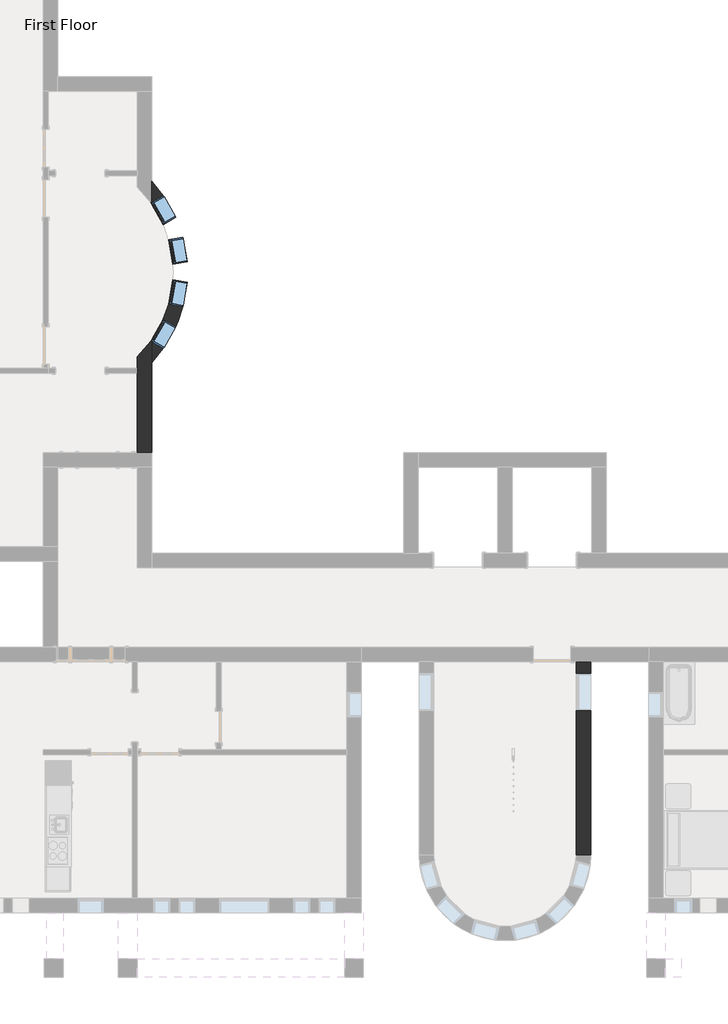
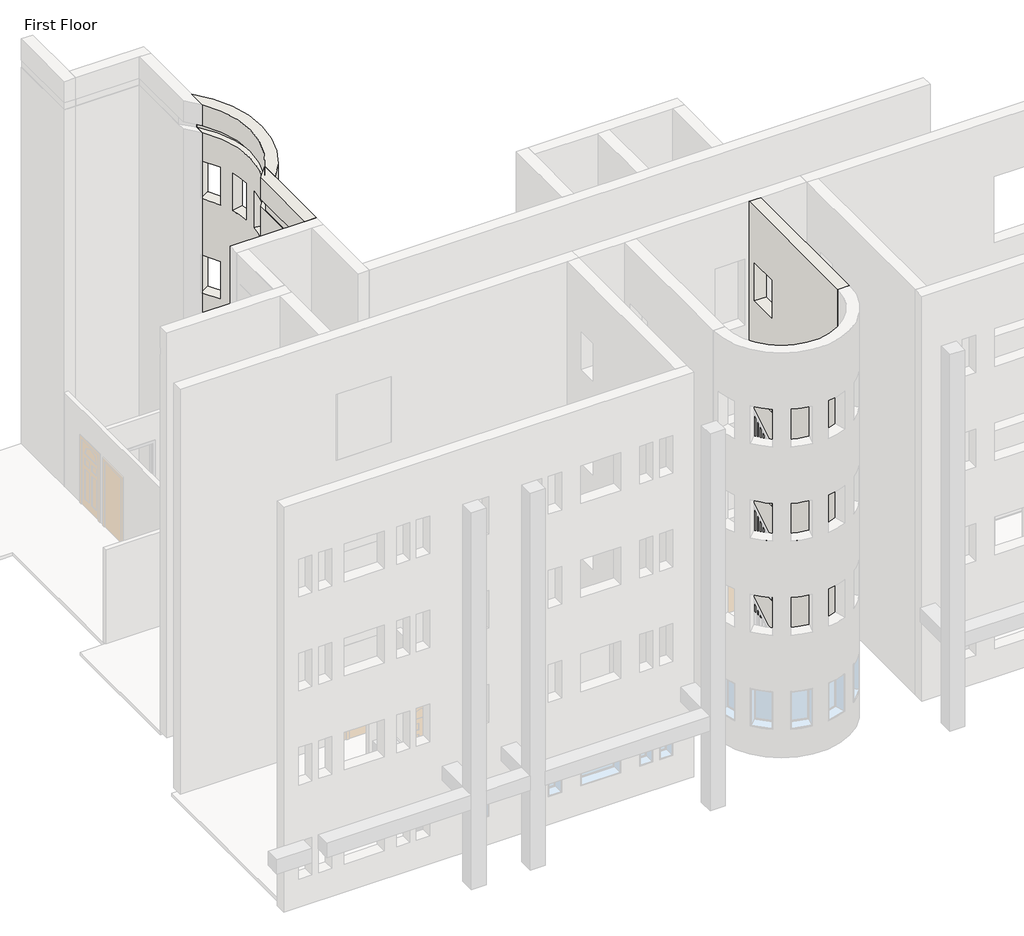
# One storey, part 5 of 23: 4 windows, 3 walls.
"""IFC4 building model written with IfcOpenShell, lengths in millimetres."""

from ifc_helpers import new_model, si_unit, frame, origin, place, context, project, spatial, polyline, circle_curve, outline, extrude, transform, mapped, element, save
from ifc_brep_helpers import plane_surface, cylinder_surface, revolved_surface, advanced_brep
from components import window_60baf983, window_ed80354a

model = new_model("IFC4")

# Units and contexts
model_context = context("Model", 3, world=origin())
ifc_project = project(units=[si_unit("LENGTHUNIT", "METRE", prefix="MILLI")], contexts=[model_context])

# Site, building, storey
site = spatial("IfcSite", under=ifc_project)
building = spatial("IfcBuilding", under=site)
storey = spatial("IfcBuildingStorey", under=building, Name="First Floor", Elevation=0.0)

# Walls
placement = place(None, origin())
element("IfcWall", 1, ObjectType="Exterior - Brick on Mtl. Stud", at=placement, inside=storey, context=model_context, shape_type="SweptSolid", body=[
    extrude(outline(polyline([(-28134.7808133, 0.0), (-32835.3683133, 0.0), (-32835.3683133, 13106.4), (-28134.7808133, 13106.4), (-28134.7808133, 0.0)]), holes=[polyline([(-29330.1683133, 8229.6), (-29330.1683133, 7010.4), (-28415.7683133, 7010.4), (-28415.7683133, 8229.6), (-29330.1683133, 8229.6)]), polyline([(-29330.1683133, 5181.6), (-29330.1683133, 3962.4), (-28415.7683133, 3962.4), (-28415.7683133, 5181.6), (-29330.1683133, 5181.6)]), polyline([(-29330.1683133, 11277.6), (-29330.1683133, 10058.4), (-28415.7683133, 10058.4), (-28415.7683133, 11277.6), (-29330.1683133, 11277.6)]), polyline([(-29330.1683133, 2133.6), (-29330.1683133, 914.4), (-28415.7683133, 914.4), (-28415.7683133, 2133.6), (-29330.1683133, 2133.6)])]), frame((-13333.3839563, 0.0, 0.0), z_axis=(1.0, 0.0, 0.0), x_axis=(0.0, 1.0, 0.0)), (0.0, 0.0, 1.0), 352.425),
])
element("IfcWall", 2, ObjectType="Exterior - Brick on Mtl. Stud", at=placement, inside=storey, context=model_context, shape_type="AdvancedBrep", body=[
    advanced_brep(
    [(-23648.9589563, -23057.9558133, 0.0), (-23648.9589563, -20866.5535473, 0.0), (-23648.9589563, -20308.6589631, 0.0), (-23648.9589563, -20308.6589631, 914.4), (-23648.9589563, -20357.947211, 914.4), (-23648.9589563, -20357.947211, 2133.6), (-23648.9589563, -20308.6589631, 2133.6), (-23648.9589563, -20308.6589631, 3962.4), (-23648.9589563, -20357.947211, 3962.4), (-23648.9589563, -20357.947211, 5181.6), (-23648.9589563, -20308.6589631, 5181.6), (-23648.9589563, -20308.6589631, 7010.4), (-23648.9589563, -20357.947211, 7010.4), (-23648.9589563, -20357.947211, 8229.6), (-23648.9589563, -20308.6589631, 8229.6), (-23648.9589563, -20308.6589631, 10058.4), (-23648.9589563, -20357.947211, 10058.4), (-23648.9589563, -20357.947211, 11277.6), (-23648.9589563, -20308.6589631, 11277.6), (-23648.9589563, -20308.6589631, 12192.0), (-23648.9589563, -20617.1458841, 12192.0), (-23648.9589563, -20617.1458841, 12420.6), (-23648.9589563, -20308.6589631, 12420.6), (-23648.9589563, -20308.6589631, 13106.4), (-23648.9589563, -20866.5535473, 13106.4), (-23648.9589563, -23057.9558133, 13106.4), (-24001.3839563, -20722.552661, 0.0), (-24001.3839563, -20997.3808133, 0.0), (-24001.3839563, -21124.3808133, 0.0), (-24001.3839563, -23057.9558133, 0.0), (-24001.3839563, -23057.9558133, 12192.0), (-24001.3839563, -21124.3808133, 12192.0), (-24001.3839563, -20997.3808133, 12192.0), (-24001.3839563, -20722.552661, 12192.0), (-24001.3839563, -23057.9558133, 13106.4), (-24001.3839563, -20722.552661, 13106.4), (-24001.3839563, -20722.552661, 12420.6), (-24001.3839563, -23057.9558133, 12420.6), (-23654.428547, -20316.4477821, 11277.6), (-23654.428547, -20316.4477821, 10058.4), (-23654.428547, -20316.4477821, 8229.6), (-23654.428547, -20316.4477821, 7010.4), (-23654.428547, -20316.4477821, 5181.6), (-23654.428547, -20316.4477821, 3962.4), (-23654.428547, -20316.4477821, 2133.6), (-23654.428547, -20316.4477821, 914.4), (-23988.6839563, -23057.9558133, 12420.6), (-23988.6839563, -23057.9558133, 12192.0), (-23670.9598455, -20345.3735215, 2133.6), (-23670.9598455, -20345.3735215, 914.4), (-23670.9598455, -20345.3735215, 11277.6), (-23670.9598455, -20345.3735215, 10058.4), (-23670.9598455, -20345.3735215, 5181.6), (-23670.9598455, -20345.3735215, 3962.4), (-23670.9598455, -20345.3735215, 8229.6), (-23670.9598455, -20345.3735215, 7010.4), (-23988.6839563, -20965.4736866, 12192.0), (-23988.6839563, -20965.4736866, 12420.6)],
    [
        (0, 1),
        (1, 2),
        (2, 3),
        (3, 4),
        (4, 5),
        (5, 6),
        (6, 7),
        (7, 8),
        (8, 9),
        (9, 10),
        (10, 11),
        (11, 12),
        (12, 13),
        (13, 14),
        (14, 15),
        (15, 16),
        (16, 17),
        (17, 18),
        (18, 19),
        (19, 20),
        (20, 21),
        (21, 22),
        (22, 23),
        (23, 24),
        (24, 25),
        (25, 0),
        (26, 27),
        (27, 28),
        (28, 29),
        (29, 30),
        (30, 31),
        (31, 32),
        (32, 33),
        (33, 26),
        (34, 35),
        (35, 36),
        (36, 37),
        (37, 34),
        (0, 29),
        (26, 2, circle_curve(frame((-26001.8788413, -18662.1683133, 0.0), z_axis=(0.0, 0.0, 1.0), x_axis=(0.0, -1.0, 0.0)), 2871.7875)),
        (23, 35, circle_curve(frame((-26001.8788413, -18662.1683133, 13106.4), z_axis=(0.0, 0.0, -1.0), x_axis=(0.0, -1.0, 0.0)), 2871.7875)),
        (34, 25),
        (33, 19, circle_curve(frame((-26001.8788413, -18662.1683133, 12192.0), z_axis=(0.0, 0.0, 1.0), x_axis=(0.0, -1.0, 0.0)), 2871.7875)),
        (18, 38, circle_curve(frame((-26001.8788413, -18662.1683133, 11277.6), z_axis=(0.0, 0.0, -1.0), x_axis=(0.0, -1.0, 0.0)), 2871.7875)),
        (38, 39),
        (39, 15, circle_curve(frame((-26001.8788413, -18662.1683133, 10058.4), z_axis=(0.0, 0.0, 1.0), x_axis=(0.0, -1.0, 0.0)), 2871.7875)),
        (14, 40, circle_curve(frame((-26001.8788413, -18662.1683133, 8229.6), z_axis=(0.0, 0.0, -1.0), x_axis=(0.0, -1.0, 0.0)), 2871.7875)),
        (40, 41),
        (41, 11, circle_curve(frame((-26001.8788413, -18662.1683133, 7010.4), z_axis=(0.0, 0.0, 1.0), x_axis=(0.0, -1.0, 0.0)), 2871.7875)),
        (10, 42, circle_curve(frame((-26001.8788413, -18662.1683133, 5181.6), z_axis=(0.0, 0.0, -1.0), x_axis=(0.0, -1.0, 0.0)), 2871.7875)),
        (42, 43),
        (43, 7, circle_curve(frame((-26001.8788413, -18662.1683133, 3962.4), z_axis=(0.0, 0.0, 1.0), x_axis=(0.0, -1.0, 0.0)), 2871.7875)),
        (6, 44, circle_curve(frame((-26001.8788413, -18662.1683133, 2133.6), z_axis=(0.0, 0.0, -1.0), x_axis=(0.0, -1.0, 0.0)), 2871.7875)),
        (44, 45),
        (45, 3, circle_curve(frame((-26001.8788413, -18662.1683133, 914.4), z_axis=(0.0, 0.0, 1.0), x_axis=(0.0, -1.0, 0.0)), 2871.7875)),
        (22, 36, circle_curve(frame((-26001.8788413, -18662.1683133, 12420.6), z_axis=(0.0, 0.0, -1.0), x_axis=(0.0, -1.0, 0.0)), 2871.7875)),
        (37, 46),
        (46, 47),
        (47, 30),
        (48, 49),
        (49, 45),
        (44, 48),
        (49, 4),
        (48, 5),
        (50, 51),
        (51, 39),
        (38, 50),
        (51, 16),
        (50, 17),
        (52, 53),
        (53, 43),
        (42, 52),
        (53, 8),
        (52, 9),
        (54, 55),
        (55, 41),
        (40, 54),
        (55, 12),
        (54, 13),
        (47, 56),
        (56, 20, circle_curve(frame((-26001.8788413, -18662.1683133, 12192.0), z_axis=(0.0, 0.0, 1.0), x_axis=(0.0, -1.0, 0.0)), 3059.1125)),
        (21, 57, circle_curve(frame((-26001.8788413, -18662.1683133, 12420.6), z_axis=(0.0, 0.0, -1.0), x_axis=(0.0, -1.0, 0.0)), 3059.1125)),
        (57, 46),
        (57, 56),
    ],
    [
        plane_surface(frame((-23648.9589563, -23234.1683133, 0.0), z_axis=(1.0, 0.0, 0.0), x_axis=(0.0, 1.0, 0.0))),
        plane_surface(frame((-24001.3839563, -23234.1683133, 0.0), z_axis=(-1.0, 0.0, 0.0), x_axis=(0.0, -1.0, 0.0))),
        plane_surface(frame((-23648.9589563, -23234.1683133, 0.0), z_axis=(0.0, 0.0, -1.0), x_axis=(-1.0, 0.0, 0.0))),
        plane_surface(frame((-23648.9589563, -20795.7683133, 13106.4), z_axis=(0.0, 0.0, 1.0), x_axis=(-1.0, 0.0, 0.0))),
        revolved_surface(polyline([(-26001.8788413, -21533.9558133, 0.0), (-26001.8788413, -21533.9558133, 12192.0)]), (-26001.8788413, -18662.1683133, 0.0), (0.0, 0.0, -1.0)),
        revolved_surface(polyline([(-26001.8788413, -21533.9558133, 12420.6), (-26001.8788413, -21533.9558133, 13106.4)]), (-26001.8788413, -18662.1683133, 0.0), (0.0, 0.0, -1.0)),
        plane_surface(frame((-26111.1714563, -23057.9558133, 0.0), z_axis=(0.0, -1.0, 0.0), x_axis=(-1.0, 0.0, 0.0))),
        plane_surface(frame((-23368.4817613, -19816.1106675, 2133.6), z_axis=(0.8682133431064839, -0.4961910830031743, 0.0), x_axis=(0.0, 0.0, -1.0))),
        plane_surface(frame((-23368.4817613, -19816.1106675, 914.4), z_axis=(0.0, 0.0, 1.0), x_axis=(0.8682133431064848, -0.4961910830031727, 0.0))),
        plane_surface(frame((-23670.9598455, -20345.3735215, 914.4), z_axis=(0.4961910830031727, 0.8682133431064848, 0.0), x_axis=(0.8682133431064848, -0.4961910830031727, 0.0))),
        plane_surface(frame((-23670.9598455, -20345.3735215, 2133.6), z_axis=(0.0, 0.0, -1.0), x_axis=(0.8682133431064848, -0.4961910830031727, 0.0))),
        plane_surface(frame((-23368.4817613, -19816.1106675, 11277.6), z_axis=(0.8682133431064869, -0.49619108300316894, 0.0), x_axis=(0.0, 0.0, -1.0))),
        plane_surface(frame((-23368.4817613, -19816.1106675, 10058.4), z_axis=(0.0, 0.0, 1.0), x_axis=(0.868213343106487, -0.4961910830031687, 0.0))),
        plane_surface(frame((-23670.9598455, -20345.3735215, 10058.4), z_axis=(0.4961910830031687, 0.868213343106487, 0.0), x_axis=(0.868213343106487, -0.4961910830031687, 0.0))),
        plane_surface(frame((-23670.9598455, -20345.3735215, 11277.6), z_axis=(0.0, 0.0, -1.0), x_axis=(0.868213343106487, -0.4961910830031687, 0.0))),
        plane_surface(frame((-23368.4817613, -19816.1106675, 5181.6), z_axis=(0.8682133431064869, -0.49619108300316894, 0.0), x_axis=(0.0, 0.0, -1.0))),
        plane_surface(frame((-23368.4817613, -19816.1106675, 3962.4), z_axis=(0.0, 0.0, 1.0), x_axis=(0.868213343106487, -0.4961910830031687, 0.0))),
        plane_surface(frame((-23670.9598455, -20345.3735215, 3962.4), z_axis=(0.4961910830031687, 0.868213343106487, 0.0), x_axis=(0.868213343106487, -0.4961910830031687, 0.0))),
        plane_surface(frame((-23670.9598455, -20345.3735215, 5181.6), z_axis=(0.0, 0.0, -1.0), x_axis=(0.868213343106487, -0.4961910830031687, 0.0))),
        plane_surface(frame((-23368.4817613, -19816.1106675, 8229.6), z_axis=(0.8682133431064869, -0.49619108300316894, 0.0), x_axis=(0.0, 0.0, -1.0))),
        plane_surface(frame((-23368.4817613, -19816.1106675, 7010.4), z_axis=(0.0, 0.0, 1.0), x_axis=(0.868213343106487, -0.4961910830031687, 0.0))),
        plane_surface(frame((-23670.9598455, -20345.3735215, 7010.4), z_axis=(0.4961910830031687, 0.868213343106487, 0.0), x_axis=(0.868213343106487, -0.4961910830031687, 0.0))),
        plane_surface(frame((-23670.9598455, -20345.3735215, 8229.6), z_axis=(0.0, 0.0, -1.0), x_axis=(0.868213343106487, -0.4961910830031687, 0.0))),
        plane_surface(frame((-29757.6589563, -11967.6808133, 12192.0), z_axis=(0.0, 0.0, 1.0), x_axis=(1.0, 0.0, 0.0))),
        plane_surface(frame((-29757.6589563, -11967.6808133, 12420.6), z_axis=(0.0, 0.0, -1.0), x_axis=(1.0, 0.0, 0.0))),
        plane_surface(frame((-23988.6839563, -23070.6558133, 12192.0), z_axis=(-1.0, 0.0, 0.0), x_axis=(0.0, 1.0, 0.0))),
        revolved_surface(polyline([(-26001.8788413, -21721.2808133, 12420.6), (-26001.8788413, -21721.2808133, 12192.0)]), (-26001.8788413, -18662.1683133, 12192.0), (0.0, 0.0, 1.0)),
    ],
    [
        (0, [[1, 2, 3, 4, 5, 6, 7, 8, 9, 10, 11, 12, 13, 14, 15, 16, 17, 18, 19, 20, 21, 22, 23, 24, 25, 26]]),
        (1, [[27, 28, 29, 30, 31, 32, 33, 34]]),
        (1, [[35, 36, 37, 38]]),
        (2, [[-2, -1, 39, -29, -28, -27, 40]]),
        (3, [[-25, -24, 41, -35, 42]]),
        (4, [[-40, -34, 43, -19, 44, 45, 46, -15, 47, 48, 49, -11, 50, 51, 52, -7, 53, 54, 55, -3]]),
        (5, [[-41, -23, 56, -36]]),
        (6, [[-26, -42, -38, 57, 58, 59, -30, -39]]),
        (7, [[60, 61, -54, 62]]),
        (8, [[63, -4, -55, -61]]),
        (9, [[-60, 64, -5, -63]]),
        (10, [[-64, -62, -53, -6]]),
        (11, [[65, 66, -45, 67]]),
        (12, [[68, -16, -46, -66]]),
        (13, [[-65, 69, -17, -68]]),
        (14, [[-69, -67, -44, -18]]),
        (15, [[70, 71, -51, 72]]),
        (16, [[73, -8, -52, -71]]),
        (17, [[-70, 74, -9, -73]]),
        (18, [[-74, -72, -50, -10]]),
        (19, [[75, 76, -48, 77]]),
        (20, [[78, -12, -49, -76]]),
        (21, [[-75, 79, -13, -78]]),
        (22, [[-79, -77, -47, -14]]),
        (23, [[80, 81, -20, -43, -33, -32, -31, -59]]),
        (24, [[82, 83, -57, -37, -56, -22]]),
        (25, [[84, -80, -58, -83]]),
        (26, [[-84, -82, -21, -81]]),
    ],
),
])
element("IfcWall", 3, ObjectType="Exterior - Brick on Mtl. Stud", at=placement, inside=storey, context=model_context, shape_type="AdvancedBrep", body=[
    advanced_brep(
    [(-23648.9589563, -20866.5535473, 13106.4), (-23648.9589563, -16457.7830793, 13106.4), (-23648.9589563, -17015.6776635, 13106.4), (-23648.9589563, -20308.6589631, 13106.4), (-23648.9589563, -16457.7830793, 0.0), (-23648.9589563, -20866.5535473, 0.0), (-23648.9589563, -20308.6589631, 0.0), (-23648.9589563, -17015.6776635, 0.0), (-23063.8719855, -17334.1389611, 914.4), (-23063.8719855, -17334.1389611, 2133.6), (-23366.3500697, -16804.8761071, 2133.6), (-23366.3500697, -16804.8761071, 914.4), (-23063.8719855, -19990.1976656, 2133.6), (-23063.8719855, -19990.1976656, 914.4), (-23366.3500697, -20519.4605195, 914.4), (-23366.3500697, -20519.4605195, 2133.6), (-23063.8719855, -17334.1389611, 10058.4), (-23063.8719855, -17334.1389611, 11277.6), (-23366.3500697, -16804.8761071, 11277.6), (-23366.3500697, -16804.8761071, 10058.4), (-23063.8719855, -19990.1976656, 11277.6), (-23063.8719855, -19990.1976656, 10058.4), (-23366.3500697, -20519.4605195, 10058.4), (-23366.3500697, -20519.4605195, 11277.6), (-23063.8719855, -17334.1389611, 3962.4), (-23063.8719855, -17334.1389611, 5181.6), (-23366.3500697, -16804.8761071, 5181.6), (-23366.3500697, -16804.8761071, 3962.4), (-23063.8719855, -19990.1976656, 5181.6), (-23063.8719855, -19990.1976656, 3962.4), (-23366.3500697, -20519.4605195, 3962.4), (-23366.3500697, -20519.4605195, 5181.6), (-23063.8719855, -17334.1389611, 7010.4), (-23063.8719855, -17334.1389611, 8229.6), (-23366.3500697, -16804.8761071, 8229.6), (-23366.3500697, -16804.8761071, 7010.4), (-23063.8719855, -19990.1976656, 8229.6), (-23063.8719855, -19990.1976656, 7010.4), (-23366.3500697, -20519.4605195, 7010.4), (-23366.3500697, -20519.4605195, 8229.6), (-22786.9445035, -18906.5930431, 8229.6), (-22786.9445035, -18906.5930431, 7010.4), (-22890.4133094, -19507.3478734, 7010.4), (-22890.4133094, -19507.3478734, 8229.6), (-22786.9445035, -18417.7435836, 7010.4), (-22786.9445035, -18417.7435836, 8229.6), (-22890.4133094, -17816.9887532, 8229.6), (-22890.4133094, -17816.9887532, 7010.4), (-22786.9445035, -18906.5930431, 5181.6), (-22786.9445035, -18906.5930431, 3962.4), (-22890.4133094, -19507.3478734, 3962.4), (-22890.4133094, -19507.3478734, 5181.6), (-22786.9445035, -18417.7435836, 3962.4), (-22786.9445035, -18417.7435836, 5181.6), (-22890.4133094, -17816.9887532, 5181.6), (-22890.4133094, -17816.9887532, 3962.4), (-22786.9445035, -18906.5930431, 11277.6), (-22786.9445035, -18906.5930431, 10058.4), (-22890.4133094, -19507.3478734, 10058.4), (-22890.4133094, -19507.3478734, 11277.6), (-22786.9445035, -18417.7435836, 10058.4), (-22786.9445035, -18417.7435836, 11277.6), (-22890.4133094, -17816.9887532, 11277.6), (-22890.4133094, -17816.9887532, 10058.4), (-22786.9445035, -18906.5930431, 2133.6), (-22786.9445035, -18906.5930431, 914.4), (-22890.4133094, -19507.3478734, 914.4), (-22890.4133094, -19507.3478734, 2133.6), (-22786.9445035, -18417.7435836, 914.4), (-22786.9445035, -18417.7435836, 2133.6), (-22890.4133094, -17816.9887532, 2133.6), (-22890.4133094, -17816.9887532, 914.4), (-23648.9589563, -17015.6776635, 12420.6), (-23648.9589563, -20308.6589631, 12420.6), (-23648.9589563, -20308.6589631, 914.4), (-23371.3988057, -19814.4435526, 914.4), (-23371.3988057, -19814.4435526, 2133.6), (-23648.9589563, -20308.6589631, 2133.6), (-23648.9589563, -20308.6589631, 3962.4), (-23371.3988057, -19814.4435526, 3962.4), (-23371.3988057, -19814.4435526, 5181.6), (-23648.9589563, -20308.6589631, 5181.6), (-23648.9589563, -20308.6589631, 7010.4), (-23371.3988057, -19814.4435526, 7010.4), (-23371.3988057, -19814.4435526, 8229.6), (-23648.9589563, -20308.6589631, 8229.6), (-23648.9589563, -20308.6589631, 10058.4), (-23371.3988057, -19814.4435526, 10058.4), (-23371.3988057, -19814.4435526, 11277.6), (-23648.9589563, -20308.6589631, 11277.6), (-23648.9589563, -20308.6589631, 12192.0), (-23648.9589563, -17015.6776635, 12192.0), (-23648.9589563, -17015.6776635, 11277.6), (-23371.3988057, -17509.893074, 11277.6), (-23371.3988057, -17509.893074, 10058.4), (-23648.9589563, -17015.6776635, 10058.4), (-23648.9589563, -17015.6776635, 8229.6), (-23371.3988057, -17509.893074, 8229.6), (-23371.3988057, -17509.893074, 7010.4), (-23648.9589563, -17015.6776635, 7010.4), (-23648.9589563, -17015.6776635, 5181.6), (-23371.3988057, -17509.893074, 5181.6), (-23371.3988057, -17509.893074, 3962.4), (-23648.9589563, -17015.6776635, 3962.4), (-23648.9589563, -17015.6776635, 2133.6), (-23371.3988057, -17509.893074, 2133.6), (-23371.3988057, -17509.893074, 914.4), (-23648.9589563, -17015.6776635, 914.4), (-23136.0115527, -18846.4727595, 7010.4), (-23136.0115527, -18846.4727595, 8229.6), (-23239.4803586, -19447.2275899, 8229.6), (-23239.4803586, -19447.2275899, 7010.4), (-23136.0115527, -18477.8638671, 8229.6), (-23136.0115527, -18477.8638671, 7010.4), (-23239.4803586, -17877.1090368, 7010.4), (-23239.4803586, -17877.1090368, 8229.6), (-23136.0115527, -18846.4727595, 3962.4), (-23136.0115527, -18846.4727595, 5181.6), (-23239.4803586, -19447.2275899, 5181.6), (-23239.4803586, -19447.2275899, 3962.4), (-23136.0115527, -18477.8638671, 5181.6), (-23136.0115527, -18477.8638671, 3962.4), (-23239.4803586, -17877.1090368, 3962.4), (-23239.4803586, -17877.1090368, 5181.6), (-23136.0115527, -18846.4727595, 10058.4), (-23136.0115527, -18846.4727595, 11277.6), (-23239.4803586, -19447.2275899, 11277.6), (-23239.4803586, -19447.2275899, 10058.4), (-23136.0115527, -18477.8638671, 11277.6), (-23136.0115527, -18477.8638671, 10058.4), (-23239.4803586, -17877.1090368, 10058.4), (-23239.4803586, -17877.1090368, 11277.6), (-23136.0115527, -18846.4727595, 914.4), (-23136.0115527, -18846.4727595, 2133.6), (-23239.4803586, -19447.2275899, 2133.6), (-23239.4803586, -19447.2275899, 914.4), (-23136.0115527, -18477.8638671, 2133.6), (-23136.0115527, -18477.8638671, 914.4), (-23239.4803586, -17877.1090368, 914.4), (-23239.4803586, -17877.1090368, 2133.6), (-23648.9589563, -20617.1458841, 12420.6), (-23648.9589563, -20617.1458841, 12192.0), (-23648.9589563, -20357.947211, 11277.6), (-23648.9589563, -20357.947211, 10058.4), (-23648.9589563, -20357.947211, 8229.6), (-23648.9589563, -20357.947211, 7010.4), (-23648.9589563, -20357.947211, 5181.6), (-23648.9589563, -20357.947211, 3962.4), (-23648.9589563, -20357.947211, 2133.6), (-23648.9589563, -20357.947211, 914.4), (-23648.9589563, -16966.3894156, 914.4), (-23648.9589563, -16966.3894156, 2133.6), (-23648.9589563, -16966.3894156, 3962.4), (-23648.9589563, -16966.3894156, 5181.6), (-23648.9589563, -16966.3894156, 7010.4), (-23648.9589563, -16966.3894156, 8229.6), (-23648.9589563, -16966.3894156, 10058.4), (-23648.9589563, -16966.3894156, 11277.6), (-23648.9589563, -16707.1907425, 12192.0), (-23648.9589563, -16707.1907425, 12420.6)],
    [
        (0, 1, circle_curve(frame((-26001.8788413, -18662.1683133, 13106.4), z_axis=(0.0, 0.0, 1.0), x_axis=(0.0, -1.0, 0.0)), 3224.2125)),
        (1, 2),
        (2, 3, circle_curve(frame((-26001.8788413, -18662.1683133, 13106.4), z_axis=(0.0, 0.0, -1.0), x_axis=(0.0, -1.0, 0.0)), 2871.7875)),
        (3, 0),
        (4, 5, circle_curve(frame((-26001.8788413, -18662.1683133, 0.0), z_axis=(0.0, 0.0, -1.0), x_axis=(0.0, -1.0, 0.0)), 3224.2125)),
        (5, 6),
        (6, 7, circle_curve(frame((-26001.8788413, -18662.1683133, 0.0), z_axis=(0.0, 0.0, 1.0), x_axis=(0.0, -1.0, 0.0)), 2871.7875)),
        (7, 4),
        (0, 5),
        (4, 1),
        (8, 9),
        (9, 10, circle_curve(frame((-26001.8788413, -18662.1683133, 2133.6), z_axis=(0.0, 0.0, 1.0), x_axis=(0.0, -1.0, 0.0)), 3224.2125)),
        (10, 11),
        (11, 8, circle_curve(frame((-26001.8788413, -18662.1683133, 914.4), z_axis=(0.0, 0.0, -1.0), x_axis=(0.0, -1.0, 0.0)), 3224.2125)),
        (12, 13),
        (13, 14, circle_curve(frame((-26001.8788413, -18662.1683133, 914.4), z_axis=(0.0, 0.0, -1.0), x_axis=(0.0, -1.0, 0.0)), 3224.2125)),
        (14, 15),
        (15, 12, circle_curve(frame((-26001.8788413, -18662.1683133, 2133.6), z_axis=(0.0, 0.0, 1.0), x_axis=(0.0, -1.0, 0.0)), 3224.2125)),
        (16, 17),
        (17, 18, circle_curve(frame((-26001.8788413, -18662.1683133, 11277.6), z_axis=(0.0, 0.0, 1.0), x_axis=(0.0, -1.0, 0.0)), 3224.2125)),
        (18, 19),
        (19, 16, circle_curve(frame((-26001.8788413, -18662.1683133, 10058.4), z_axis=(0.0, 0.0, -1.0), x_axis=(0.0, -1.0, 0.0)), 3224.2125)),
        (20, 21),
        (21, 22, circle_curve(frame((-26001.8788413, -18662.1683133, 10058.4), z_axis=(0.0, 0.0, -1.0), x_axis=(0.0, -1.0, 0.0)), 3224.2125)),
        (22, 23),
        (23, 20, circle_curve(frame((-26001.8788413, -18662.1683133, 11277.6), z_axis=(0.0, 0.0, 1.0), x_axis=(0.0, -1.0, 0.0)), 3224.2125)),
        (24, 25),
        (25, 26, circle_curve(frame((-26001.8788413, -18662.1683133, 5181.6), z_axis=(0.0, 0.0, 1.0), x_axis=(0.0, -1.0, 0.0)), 3224.2125)),
        (26, 27),
        (27, 24, circle_curve(frame((-26001.8788413, -18662.1683133, 3962.4), z_axis=(0.0, 0.0, -1.0), x_axis=(0.0, -1.0, 0.0)), 3224.2125)),
        (28, 29),
        (29, 30, circle_curve(frame((-26001.8788413, -18662.1683133, 3962.4), z_axis=(0.0, 0.0, -1.0), x_axis=(0.0, -1.0, 0.0)), 3224.2125)),
        (30, 31),
        (31, 28, circle_curve(frame((-26001.8788413, -18662.1683133, 5181.6), z_axis=(0.0, 0.0, 1.0), x_axis=(0.0, -1.0, 0.0)), 3224.2125)),
        (32, 33),
        (33, 34, circle_curve(frame((-26001.8788413, -18662.1683133, 8229.6), z_axis=(0.0, 0.0, 1.0), x_axis=(0.0, -1.0, 0.0)), 3224.2125)),
        (34, 35),
        (35, 32, circle_curve(frame((-26001.8788413, -18662.1683133, 7010.4), z_axis=(0.0, 0.0, -1.0), x_axis=(0.0, -1.0, 0.0)), 3224.2125)),
        (36, 37),
        (37, 38, circle_curve(frame((-26001.8788413, -18662.1683133, 7010.4), z_axis=(0.0, 0.0, -1.0), x_axis=(0.0, -1.0, 0.0)), 3224.2125)),
        (38, 39),
        (39, 36, circle_curve(frame((-26001.8788413, -18662.1683133, 8229.6), z_axis=(0.0, 0.0, 1.0), x_axis=(0.0, -1.0, 0.0)), 3224.2125)),
        (40, 41),
        (41, 42, circle_curve(frame((-26001.8788413, -18662.1683133, 7010.4), z_axis=(0.0, 0.0, -1.0), x_axis=(0.0, -1.0, 0.0)), 3224.2125)),
        (42, 43),
        (43, 40, circle_curve(frame((-26001.8788413, -18662.1683133, 8229.6), z_axis=(0.0, 0.0, 1.0), x_axis=(0.0, -1.0, 0.0)), 3224.2125)),
        (44, 45),
        (45, 46, circle_curve(frame((-26001.8788413, -18662.1683133, 8229.6), z_axis=(0.0, 0.0, 1.0), x_axis=(0.0, -1.0, 0.0)), 3224.2125)),
        (46, 47),
        (47, 44, circle_curve(frame((-26001.8788413, -18662.1683133, 7010.4), z_axis=(0.0, 0.0, -1.0), x_axis=(0.0, -1.0, 0.0)), 3224.2125)),
        (48, 49),
        (49, 50, circle_curve(frame((-26001.8788413, -18662.1683133, 3962.4), z_axis=(0.0, 0.0, -1.0), x_axis=(0.0, -1.0, 0.0)), 3224.2125)),
        (50, 51),
        (51, 48, circle_curve(frame((-26001.8788413, -18662.1683133, 5181.6), z_axis=(0.0, 0.0, 1.0), x_axis=(0.0, -1.0, 0.0)), 3224.2125)),
        (52, 53),
        (53, 54, circle_curve(frame((-26001.8788413, -18662.1683133, 5181.6), z_axis=(0.0, 0.0, 1.0), x_axis=(0.0, -1.0, 0.0)), 3224.2125)),
        (54, 55),
        (55, 52, circle_curve(frame((-26001.8788413, -18662.1683133, 3962.4), z_axis=(0.0, 0.0, -1.0), x_axis=(0.0, -1.0, 0.0)), 3224.2125)),
        (56, 57),
        (57, 58, circle_curve(frame((-26001.8788413, -18662.1683133, 10058.4), z_axis=(0.0, 0.0, -1.0), x_axis=(0.0, -1.0, 0.0)), 3224.2125)),
        (58, 59),
        (59, 56, circle_curve(frame((-26001.8788413, -18662.1683133, 11277.6), z_axis=(0.0, 0.0, 1.0), x_axis=(0.0, -1.0, 0.0)), 3224.2125)),
        (60, 61),
        (61, 62, circle_curve(frame((-26001.8788413, -18662.1683133, 11277.6), z_axis=(0.0, 0.0, 1.0), x_axis=(0.0, -1.0, 0.0)), 3224.2125)),
        (62, 63),
        (63, 60, circle_curve(frame((-26001.8788413, -18662.1683133, 10058.4), z_axis=(0.0, 0.0, -1.0), x_axis=(0.0, -1.0, 0.0)), 3224.2125)),
        (64, 65),
        (65, 66, circle_curve(frame((-26001.8788413, -18662.1683133, 914.4), z_axis=(0.0, 0.0, -1.0), x_axis=(0.0, -1.0, 0.0)), 3224.2125)),
        (66, 67),
        (67, 64, circle_curve(frame((-26001.8788413, -18662.1683133, 2133.6), z_axis=(0.0, 0.0, 1.0), x_axis=(0.0, -1.0, 0.0)), 3224.2125)),
        (68, 69),
        (69, 70, circle_curve(frame((-26001.8788413, -18662.1683133, 2133.6), z_axis=(0.0, 0.0, 1.0), x_axis=(0.0, -1.0, 0.0)), 3224.2125)),
        (70, 71),
        (71, 68, circle_curve(frame((-26001.8788413, -18662.1683133, 914.4), z_axis=(0.0, 0.0, -1.0), x_axis=(0.0, -1.0, 0.0)), 3224.2125)),
        (2, 72),
        (72, 73, circle_curve(frame((-26001.8788413, -18662.1683133, 12420.6), z_axis=(0.0, 0.0, -1.0), x_axis=(0.0, -1.0, 0.0)), 2871.7875)),
        (73, 3),
        (6, 74),
        (74, 75, circle_curve(frame((-26001.8788413, -18662.1683133, 914.4), z_axis=(0.0, 0.0, 1.0), x_axis=(0.0, -1.0, 0.0)), 2871.7875)),
        (75, 76),
        (76, 77, circle_curve(frame((-26001.8788413, -18662.1683133, 2133.6), z_axis=(0.0, 0.0, -1.0), x_axis=(0.0, -1.0, 0.0)), 2871.7875)),
        (77, 78),
        (78, 79, circle_curve(frame((-26001.8788413, -18662.1683133, 3962.4), z_axis=(0.0, 0.0, 1.0), x_axis=(0.0, -1.0, 0.0)), 2871.7875)),
        (79, 80),
        (80, 81, circle_curve(frame((-26001.8788413, -18662.1683133, 5181.6), z_axis=(0.0, 0.0, -1.0), x_axis=(0.0, -1.0, 0.0)), 2871.7875)),
        (81, 82),
        (82, 83, circle_curve(frame((-26001.8788413, -18662.1683133, 7010.4), z_axis=(0.0, 0.0, 1.0), x_axis=(0.0, -1.0, 0.0)), 2871.7875)),
        (83, 84),
        (84, 85, circle_curve(frame((-26001.8788413, -18662.1683133, 8229.6), z_axis=(0.0, 0.0, -1.0), x_axis=(0.0, -1.0, 0.0)), 2871.7875)),
        (85, 86),
        (86, 87, circle_curve(frame((-26001.8788413, -18662.1683133, 10058.4), z_axis=(0.0, 0.0, 1.0), x_axis=(0.0, -1.0, 0.0)), 2871.7875)),
        (87, 88),
        (88, 89, circle_curve(frame((-26001.8788413, -18662.1683133, 11277.6), z_axis=(0.0, 0.0, -1.0), x_axis=(0.0, -1.0, 0.0)), 2871.7875)),
        (89, 90),
        (90, 91, circle_curve(frame((-26001.8788413, -18662.1683133, 12192.0), z_axis=(0.0, 0.0, 1.0), x_axis=(0.0, -1.0, 0.0)), 2871.7875)),
        (91, 92),
        (92, 93, circle_curve(frame((-26001.8788413, -18662.1683133, 11277.6), z_axis=(0.0, 0.0, -1.0), x_axis=(0.0, -1.0, 0.0)), 2871.7875)),
        (93, 94),
        (94, 95, circle_curve(frame((-26001.8788413, -18662.1683133, 10058.4), z_axis=(0.0, 0.0, 1.0), x_axis=(0.0, -1.0, 0.0)), 2871.7875)),
        (95, 96),
        (96, 97, circle_curve(frame((-26001.8788413, -18662.1683133, 8229.6), z_axis=(0.0, 0.0, -1.0), x_axis=(0.0, -1.0, 0.0)), 2871.7875)),
        (97, 98),
        (98, 99, circle_curve(frame((-26001.8788413, -18662.1683133, 7010.4), z_axis=(0.0, 0.0, 1.0), x_axis=(0.0, -1.0, 0.0)), 2871.7875)),
        (99, 100),
        (100, 101, circle_curve(frame((-26001.8788413, -18662.1683133, 5181.6), z_axis=(0.0, 0.0, -1.0), x_axis=(0.0, -1.0, 0.0)), 2871.7875)),
        (101, 102),
        (102, 103, circle_curve(frame((-26001.8788413, -18662.1683133, 3962.4), z_axis=(0.0, 0.0, 1.0), x_axis=(0.0, -1.0, 0.0)), 2871.7875)),
        (103, 104),
        (104, 105, circle_curve(frame((-26001.8788413, -18662.1683133, 2133.6), z_axis=(0.0, 0.0, -1.0), x_axis=(0.0, -1.0, 0.0)), 2871.7875)),
        (105, 106),
        (106, 107, circle_curve(frame((-26001.8788413, -18662.1683133, 914.4), z_axis=(0.0, 0.0, 1.0), x_axis=(0.0, -1.0, 0.0)), 2871.7875)),
        (107, 7),
        (108, 109),
        (109, 110, circle_curve(frame((-26001.8788413, -18662.1683133, 8229.6), z_axis=(0.0, 0.0, -1.0), x_axis=(0.0, -1.0, 0.0)), 2871.7875)),
        (110, 111),
        (111, 108, circle_curve(frame((-26001.8788413, -18662.1683133, 7010.4), z_axis=(0.0, 0.0, 1.0), x_axis=(0.0, -1.0, 0.0)), 2871.7875)),
        (112, 113),
        (113, 114, circle_curve(frame((-26001.8788413, -18662.1683133, 7010.4), z_axis=(0.0, 0.0, 1.0), x_axis=(0.0, -1.0, 0.0)), 2871.7875)),
        (114, 115),
        (115, 112, circle_curve(frame((-26001.8788413, -18662.1683133, 8229.6), z_axis=(0.0, 0.0, -1.0), x_axis=(0.0, -1.0, 0.0)), 2871.7875)),
        (116, 117),
        (117, 118, circle_curve(frame((-26001.8788413, -18662.1683133, 5181.6), z_axis=(0.0, 0.0, -1.0), x_axis=(0.0, -1.0, 0.0)), 2871.7875)),
        (118, 119),
        (119, 116, circle_curve(frame((-26001.8788413, -18662.1683133, 3962.4), z_axis=(0.0, 0.0, 1.0), x_axis=(0.0, -1.0, 0.0)), 2871.7875)),
        (120, 121),
        (121, 122, circle_curve(frame((-26001.8788413, -18662.1683133, 3962.4), z_axis=(0.0, 0.0, 1.0), x_axis=(0.0, -1.0, 0.0)), 2871.7875)),
        (122, 123),
        (123, 120, circle_curve(frame((-26001.8788413, -18662.1683133, 5181.6), z_axis=(0.0, 0.0, -1.0), x_axis=(0.0, -1.0, 0.0)), 2871.7875)),
        (124, 125),
        (125, 126, circle_curve(frame((-26001.8788413, -18662.1683133, 11277.6), z_axis=(0.0, 0.0, -1.0), x_axis=(0.0, -1.0, 0.0)), 2871.7875)),
        (126, 127),
        (127, 124, circle_curve(frame((-26001.8788413, -18662.1683133, 10058.4), z_axis=(0.0, 0.0, 1.0), x_axis=(0.0, -1.0, 0.0)), 2871.7875)),
        (128, 129),
        (129, 130, circle_curve(frame((-26001.8788413, -18662.1683133, 10058.4), z_axis=(0.0, 0.0, 1.0), x_axis=(0.0, -1.0, 0.0)), 2871.7875)),
        (130, 131),
        (131, 128, circle_curve(frame((-26001.8788413, -18662.1683133, 11277.6), z_axis=(0.0, 0.0, -1.0), x_axis=(0.0, -1.0, 0.0)), 2871.7875)),
        (132, 133),
        (133, 134, circle_curve(frame((-26001.8788413, -18662.1683133, 2133.6), z_axis=(0.0, 0.0, -1.0), x_axis=(0.0, -1.0, 0.0)), 2871.7875)),
        (134, 135),
        (135, 132, circle_curve(frame((-26001.8788413, -18662.1683133, 914.4), z_axis=(0.0, 0.0, 1.0), x_axis=(0.0, -1.0, 0.0)), 2871.7875)),
        (136, 137),
        (137, 138, circle_curve(frame((-26001.8788413, -18662.1683133, 914.4), z_axis=(0.0, 0.0, 1.0), x_axis=(0.0, -1.0, 0.0)), 2871.7875)),
        (138, 139),
        (139, 136, circle_curve(frame((-26001.8788413, -18662.1683133, 2133.6), z_axis=(0.0, 0.0, -1.0), x_axis=(0.0, -1.0, 0.0)), 2871.7875)),
        (73, 140),
        (140, 141),
        (141, 90),
        (89, 142),
        (142, 143),
        (143, 86),
        (85, 144),
        (144, 145),
        (145, 82),
        (81, 146),
        (146, 147),
        (147, 78),
        (77, 148),
        (148, 149),
        (149, 74),
        (107, 150),
        (150, 151),
        (151, 104),
        (103, 152),
        (152, 153),
        (153, 100),
        (99, 154),
        (154, 155),
        (155, 96),
        (95, 156),
        (156, 157),
        (157, 92),
        (91, 158),
        (158, 159),
        (159, 72),
        (105, 9),
        (8, 106),
        (11, 150),
        (10, 151),
        (12, 76),
        (75, 13),
        (149, 14),
        (148, 15),
        (93, 17),
        (16, 94),
        (19, 156),
        (18, 157),
        (20, 88),
        (87, 21),
        (143, 22),
        (142, 23),
        (101, 25),
        (24, 102),
        (27, 152),
        (26, 153),
        (28, 80),
        (79, 29),
        (147, 30),
        (146, 31),
        (97, 33),
        (32, 98),
        (35, 154),
        (34, 155),
        (36, 84),
        (83, 37),
        (145, 38),
        (144, 39),
        (40, 109),
        (108, 41),
        (111, 42),
        (110, 43),
        (112, 45),
        (44, 113),
        (47, 114),
        (46, 115),
        (48, 117),
        (116, 49),
        (119, 50),
        (118, 51),
        (120, 53),
        (52, 121),
        (55, 122),
        (54, 123),
        (56, 125),
        (124, 57),
        (127, 58),
        (126, 59),
        (128, 61),
        (60, 129),
        (63, 130),
        (62, 131),
        (64, 133),
        (132, 65),
        (135, 66),
        (134, 67),
        (136, 69),
        (68, 137),
        (71, 138),
        (70, 139),
        (141, 158, circle_curve(frame((-26001.8788413, -18662.1683133, 12192.0), z_axis=(0.0, 0.0, 1.0), x_axis=(0.0, -1.0, 0.0)), 3059.1125)),
        (159, 140, circle_curve(frame((-26001.8788413, -18662.1683133, 12420.6), z_axis=(0.0, 0.0, -1.0), x_axis=(0.0, -1.0, 0.0)), 3059.1125)),
    ],
    [
        plane_surface(frame((-26001.8788413, -21886.3808133, 13106.4), z_axis=(0.0, 0.0, 1.0), x_axis=(1.0, 0.0, 0.0))),
        plane_surface(frame((-26001.8788413, -21886.3808133, 0.0), z_axis=(0.0, 0.0, -1.0), x_axis=(-1.0, 0.0, 0.0))),
        cylinder_surface(frame((-26001.8788413, -18662.1683133, 0.0), z_axis=(0.0, 0.0, 1.0), x_axis=(0.0, -1.0, 0.0)), 3224.2125),
        revolved_surface(polyline([(-26001.8788413, -21533.9558133, 12420.6), (-26001.8788413, -21533.9558133, 13106.4)]), (-26001.8788413, -18662.1683133, 0.0), (0.0, 0.0, -1.0)),
        revolved_surface(polyline([(-26001.8788413, -21533.9558133, 0.0), (-26001.8788413, -21533.9558133, 12192.0)]), (-26001.8788413, -18662.1683133, 0.0), (0.0, 0.0, -1.0)),
        plane_surface(frame((-23648.9589563, -23234.1683133, 0.0), z_axis=(-1.0, 0.0, 0.0), x_axis=(0.0, 1.0, 0.0))),
        plane_surface(frame((-23648.9589563, -14090.1683133, 0.0), z_axis=(-1.0, 0.0, 0.0), x_axis=(0.0, 1.0, 0.0))),
        plane_surface(frame((-21740.7148506, -16577.9437506, 2133.6), z_axis=(-0.4961910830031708, 0.8682133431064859, 0.0), x_axis=(-0.8682133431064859, -0.4961910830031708, 0.0))),
        plane_surface(frame((-21740.7148506, -16577.9437506, 914.4), z_axis=(0.0, 0.0, 1.0000000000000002), x_axis=(-0.8682133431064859, -0.4961910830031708, 0.0))),
        plane_surface(frame((-22043.1929348, -16048.6808966, 914.4), z_axis=(0.4961910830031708, -0.8682133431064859, 0.0), x_axis=(-0.8682133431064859, -0.4961910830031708, 0.0))),
        plane_surface(frame((-22043.1929348, -16048.6808966, 2133.6), z_axis=(0.0, 0.0, -1.0000000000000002), x_axis=(-0.8682133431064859, -0.4961910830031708, 0.0))),
        plane_surface(frame((-24387.0291204, -19234.0024551, 2133.6), z_axis=(-0.49619108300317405, -0.868213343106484, 0.0), x_axis=(0.868213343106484, -0.49619108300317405, 0.0))),
        plane_surface(frame((-24387.0291204, -19234.0024551, 914.4), z_axis=(0.0, 0.0, 1.0), x_axis=(0.868213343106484, -0.49619108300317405, 0.0))),
        plane_surface(frame((-24689.5072046, -19763.265309, 914.4), z_axis=(0.49619108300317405, 0.868213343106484, 0.0), x_axis=(0.868213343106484, -0.49619108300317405, 0.0))),
        plane_surface(frame((-24689.5072046, -19763.265309, 2133.6), z_axis=(0.0, 0.0, -1.0), x_axis=(0.868213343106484, -0.49619108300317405, 0.0))),
        plane_surface(frame((-21740.7148506, -16577.9437506, 11277.6), z_axis=(-0.49619108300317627, 0.8682133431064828, 0.0), x_axis=(-0.8682133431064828, -0.49619108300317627, 0.0))),
        plane_surface(frame((-21740.7148506, -16577.9437506, 10058.4), z_axis=(0.0, 0.0, 1.0000000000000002), x_axis=(-0.8682133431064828, -0.49619108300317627, 0.0))),
        plane_surface(frame((-22043.1929348, -16048.6808966, 10058.4), z_axis=(0.49619108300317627, -0.8682133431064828, 0.0), x_axis=(-0.8682133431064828, -0.49619108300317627, 0.0))),
        plane_surface(frame((-22043.1929348, -16048.6808966, 11277.6), z_axis=(0.0, 0.0, -1.0000000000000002), x_axis=(-0.8682133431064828, -0.49619108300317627, 0.0))),
        plane_surface(frame((-24387.0291204, -19234.0024551, 11277.6), z_axis=(-0.49619108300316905, -0.8682133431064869, 0.0), x_axis=(0.8682133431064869, -0.49619108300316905, 0.0))),
        plane_surface(frame((-24387.0291204, -19234.0024551, 10058.4), z_axis=(0.0, 0.0, 1.0000000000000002), x_axis=(0.8682133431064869, -0.49619108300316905, 0.0))),
        plane_surface(frame((-24689.5072046, -19763.265309, 10058.4), z_axis=(0.4961910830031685, 0.8682133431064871, 0.0), x_axis=(0.8682133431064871, -0.4961910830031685, 0.0))),
        plane_surface(frame((-24689.5072046, -19763.265309, 11277.6), z_axis=(0.0, 0.0, -1.0), x_axis=(0.8682133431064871, -0.4961910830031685, 0.0))),
        plane_surface(frame((-21740.7148506, -16577.9437506, 5181.6), z_axis=(-0.49619108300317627, 0.8682133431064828, 0.0), x_axis=(-0.8682133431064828, -0.49619108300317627, 0.0))),
        plane_surface(frame((-21740.7148506, -16577.9437506, 3962.4), z_axis=(0.0, 0.0, 1.0000000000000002), x_axis=(-0.8682133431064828, -0.49619108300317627, 0.0))),
        plane_surface(frame((-22043.1929348, -16048.6808966, 3962.4), z_axis=(0.49619108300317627, -0.8682133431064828, 0.0), x_axis=(-0.8682133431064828, -0.49619108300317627, 0.0))),
        plane_surface(frame((-22043.1929348, -16048.6808966, 5181.6), z_axis=(0.0, 0.0, -1.0000000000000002), x_axis=(-0.8682133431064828, -0.49619108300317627, 0.0))),
        plane_surface(frame((-24387.0291204, -19234.0024551, 5181.6), z_axis=(-0.49619108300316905, -0.8682133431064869, 0.0), x_axis=(0.8682133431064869, -0.49619108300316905, 0.0))),
        plane_surface(frame((-24387.0291204, -19234.0024551, 3962.4), z_axis=(0.0, 0.0, 1.0000000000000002), x_axis=(0.8682133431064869, -0.49619108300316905, 0.0))),
        plane_surface(frame((-24689.5072046, -19763.265309, 3962.4), z_axis=(0.4961910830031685, 0.8682133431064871, 0.0), x_axis=(0.8682133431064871, -0.4961910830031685, 0.0))),
        plane_surface(frame((-24689.5072046, -19763.265309, 5181.6), z_axis=(0.0, 0.0, -1.0), x_axis=(0.8682133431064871, -0.4961910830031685, 0.0))),
        plane_surface(frame((-21740.7148506, -16577.9437506, 8229.6), z_axis=(-0.49619108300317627, 0.8682133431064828, 0.0), x_axis=(-0.8682133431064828, -0.49619108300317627, 0.0))),
        plane_surface(frame((-21740.7148506, -16577.9437506, 7010.4), z_axis=(0.0, 0.0, 1.0000000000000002), x_axis=(-0.8682133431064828, -0.49619108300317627, 0.0))),
        plane_surface(frame((-22043.1929348, -16048.6808966, 7010.4), z_axis=(0.49619108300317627, -0.8682133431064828, 0.0), x_axis=(-0.8682133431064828, -0.49619108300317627, 0.0))),
        plane_surface(frame((-22043.1929348, -16048.6808966, 8229.6), z_axis=(0.0, 0.0, -1.0000000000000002), x_axis=(-0.8682133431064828, -0.49619108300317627, 0.0))),
        plane_surface(frame((-24387.0291204, -19234.0024551, 8229.6), z_axis=(-0.49619108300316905, -0.8682133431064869, 0.0), x_axis=(0.8682133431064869, -0.49619108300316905, 0.0))),
        plane_surface(frame((-24387.0291204, -19234.0024551, 7010.4), z_axis=(0.0, 0.0, 1.0000000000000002), x_axis=(0.8682133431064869, -0.49619108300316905, 0.0))),
        plane_surface(frame((-24689.5072046, -19763.265309, 7010.4), z_axis=(0.4961910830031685, 0.8682133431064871, 0.0), x_axis=(0.8682133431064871, -0.4961910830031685, 0.0))),
        plane_surface(frame((-24689.5072046, -19763.265309, 8229.6), z_axis=(0.0, 0.0, -1.0), x_axis=(0.8682133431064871, -0.4961910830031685, 0.0))),
        plane_surface(frame((-22786.9445035, -18906.5930431, 8229.6), z_axis=(-0.16973229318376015, -0.9854902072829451, 0.0), x_axis=(-0.9854902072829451, 0.16973229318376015, 0.0))),
        plane_surface(frame((-22786.9445035, -18906.5930431, 7010.4), z_axis=(0.0, 0.0, 1.0), x_axis=(-0.9854902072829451, 0.16973229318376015, 0.0))),
        plane_surface(frame((-22890.4133094, -19507.3478734, 7010.4), z_axis=(0.16973229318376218, 0.9854902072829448, 0.0), x_axis=(-0.9854902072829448, 0.16973229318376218, 0.0))),
        plane_surface(frame((-22890.4133094, -19507.3478734, 8229.6), z_axis=(0.0, 0.0, -1.0000000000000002), x_axis=(-0.9854902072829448, 0.16973229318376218, 0.0))),
        plane_surface(frame((-23136.0115527, -18477.8638671, 8229.6), z_axis=(-0.16973229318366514, 0.9854902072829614, 0.0), x_axis=(0.9854902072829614, 0.16973229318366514, 0.0))),
        plane_surface(frame((-23136.0115527, -18477.8638671, 7010.4), z_axis=(0.0, 0.0, 1.0), x_axis=(0.9854902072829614, 0.16973229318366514, 0.0))),
        plane_surface(frame((-23239.4803586, -17877.1090368, 7010.4), z_axis=(0.16973229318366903, -0.9854902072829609, 0.0), x_axis=(0.9854902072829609, 0.16973229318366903, 0.0))),
        plane_surface(frame((-23239.4803586, -17877.1090368, 8229.6), z_axis=(0.0, 0.0, -1.0000000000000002), x_axis=(0.9854902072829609, 0.16973229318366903, 0.0))),
        plane_surface(frame((-22786.9445035, -18906.5930431, 5181.6), z_axis=(-0.16973229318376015, -0.9854902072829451, 0.0), x_axis=(-0.9854902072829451, 0.16973229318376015, 0.0))),
        plane_surface(frame((-22786.9445035, -18906.5930431, 3962.4), z_axis=(0.0, 0.0, 1.0), x_axis=(-0.9854902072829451, 0.16973229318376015, 0.0))),
        plane_surface(frame((-22890.4133094, -19507.3478734, 3962.4), z_axis=(0.16973229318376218, 0.9854902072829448, 0.0), x_axis=(-0.9854902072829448, 0.16973229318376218, 0.0))),
        plane_surface(frame((-22890.4133094, -19507.3478734, 5181.6), z_axis=(0.0, 0.0, -1.0000000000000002), x_axis=(-0.9854902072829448, 0.16973229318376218, 0.0))),
        plane_surface(frame((-23136.0115527, -18477.8638671, 5181.6), z_axis=(-0.16973229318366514, 0.9854902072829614, 0.0), x_axis=(0.9854902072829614, 0.16973229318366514, 0.0))),
        plane_surface(frame((-23136.0115527, -18477.8638671, 3962.4), z_axis=(0.0, 0.0, 1.0), x_axis=(0.9854902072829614, 0.16973229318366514, 0.0))),
        plane_surface(frame((-23239.4803586, -17877.1090368, 3962.4), z_axis=(0.16973229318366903, -0.9854902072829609, 0.0), x_axis=(0.9854902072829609, 0.16973229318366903, 0.0))),
        plane_surface(frame((-23239.4803586, -17877.1090368, 5181.6), z_axis=(0.0, 0.0, -1.0000000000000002), x_axis=(0.9854902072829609, 0.16973229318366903, 0.0))),
        plane_surface(frame((-22786.9445035, -18906.5930431, 11277.6), z_axis=(-0.16973229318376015, -0.9854902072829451, 0.0), x_axis=(-0.9854902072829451, 0.16973229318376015, 0.0))),
        plane_surface(frame((-22786.9445035, -18906.5930431, 10058.4), z_axis=(0.0, 0.0, 1.0), x_axis=(-0.9854902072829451, 0.16973229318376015, 0.0))),
        plane_surface(frame((-22890.4133094, -19507.3478734, 10058.4), z_axis=(0.16973229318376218, 0.9854902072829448, 0.0), x_axis=(-0.9854902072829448, 0.16973229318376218, 0.0))),
        plane_surface(frame((-22890.4133094, -19507.3478734, 11277.6), z_axis=(0.0, 0.0, -1.0000000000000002), x_axis=(-0.9854902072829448, 0.16973229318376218, 0.0))),
        plane_surface(frame((-23136.0115527, -18477.8638671, 11277.6), z_axis=(-0.16973229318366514, 0.9854902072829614, 0.0), x_axis=(0.9854902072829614, 0.16973229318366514, 0.0))),
        plane_surface(frame((-23136.0115527, -18477.8638671, 10058.4), z_axis=(0.0, 0.0, 1.0), x_axis=(0.9854902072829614, 0.16973229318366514, 0.0))),
        plane_surface(frame((-23239.4803586, -17877.1090368, 10058.4), z_axis=(0.16973229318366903, -0.9854902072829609, 0.0), x_axis=(0.9854902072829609, 0.16973229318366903, 0.0))),
        plane_surface(frame((-23239.4803586, -17877.1090368, 11277.6), z_axis=(0.0, 0.0, -1.0000000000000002), x_axis=(0.9854902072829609, 0.16973229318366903, 0.0))),
        plane_surface(frame((-22786.9445035, -18906.5930431, 2133.6), z_axis=(-0.16973229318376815, -0.9854902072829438, 0.0), x_axis=(-0.9854902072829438, 0.16973229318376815, 0.0))),
        plane_surface(frame((-22786.9445035, -18906.5930431, 914.4), z_axis=(0.0, 0.0, 1.0000000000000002), x_axis=(-0.9854902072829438, 0.16973229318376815, 0.0))),
        plane_surface(frame((-22890.4133094, -19507.3478734, 914.4), z_axis=(0.16973229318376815, 0.9854902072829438, 0.0), x_axis=(-0.9854902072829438, 0.16973229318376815, 0.0))),
        plane_surface(frame((-22890.4133094, -19507.3478734, 2133.6), z_axis=(0.0, 0.0, -1.0000000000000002), x_axis=(-0.9854902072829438, 0.16973229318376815, 0.0))),
        plane_surface(frame((-23136.0115527, -18477.8638671, 2133.6), z_axis=(-0.16973229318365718, 0.9854902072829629, 0.0), x_axis=(0.9854902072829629, 0.16973229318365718, 0.0))),
        plane_surface(frame((-23136.0115527, -18477.8638671, 914.4), z_axis=(0.0, 0.0, 1.0000000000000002), x_axis=(0.9854902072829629, 0.16973229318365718, 0.0))),
        plane_surface(frame((-23239.4803586, -17877.1090368, 914.4), z_axis=(0.16973229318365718, -0.9854902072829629, 0.0), x_axis=(0.9854902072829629, 0.16973229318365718, 0.0))),
        plane_surface(frame((-23239.4803586, -17877.1090368, 2133.6), z_axis=(0.0, 0.0, -1.0000000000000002), x_axis=(0.9854902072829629, 0.16973229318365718, 0.0))),
        plane_surface(frame((-29757.6589563, -11967.6808133, 12192.0), z_axis=(0.0, 0.0, 1.0), x_axis=(1.0, 0.0, 0.0))),
        plane_surface(frame((-29757.6589563, -11967.6808133, 12420.6), z_axis=(0.0, 0.0, -1.0), x_axis=(1.0, 0.0, 0.0))),
        revolved_surface(polyline([(-26001.8788413, -21721.2808133, 12420.6), (-26001.8788413, -21721.2808133, 12192.0)]), (-26001.8788413, -18662.1683133, 12192.0), (0.0, 0.0, 1.0)),
    ],
    [
        (0, [[1, 2, 3, 4]]),
        (1, [[5, 6, 7, 8]]),
        (2, [[-1, 9, -5, 10], [11, 12, 13, 14], [15, 16, 17, 18], [19, 20, 21, 22], [23, 24, 25, 26], [27, 28, 29, 30], [31, 32, 33, 34], [35, 36, 37, 38], [39, 40, 41, 42], [43, 44, 45, 46], [47, 48, 49, 50], [51, 52, 53, 54], [55, 56, 57, 58], [59, 60, 61, 62], [63, 64, 65, 66], [67, 68, 69, 70], [71, 72, 73, 74]]),
        (3, [[-3, 75, 76, 77]]),
        (4, [[-7, 78, 79, 80, 81, 82, 83, 84, 85, 86, 87, 88, 89, 90, 91, 92, 93, 94, 95, 96, 97, 98, 99, 100, 101, 102, 103, 104, 105, 106, 107, 108, 109, 110, 111, 112], [113, 114, 115, 116], [117, 118, 119, 120], [121, 122, 123, 124], [125, 126, 127, 128], [129, 130, 131, 132], [133, 134, 135, 136], [137, 138, 139, 140], [141, 142, 143, 144]]),
        (5, [[-4, -77, 145, 146, 147, -94, 148, 149, 150, -90, 151, 152, 153, -86, 154, 155, 156, -82, 157, 158, 159, -78, -6, -9]]),
        (6, [[-2, -10, -8, -112, 160, 161, 162, -108, 163, 164, 165, -104, 166, 167, 168, -100, 169, 170, 171, -96, 172, 173, 174, -75]]),
        (7, [[175, -11, 176, -110]]),
        (8, [[-176, -14, 177, -160, -111]]),
        (9, [[-177, -13, 178, -161]]),
        (10, [[-175, -109, -162, -178, -12]]),
        (11, [[179, -80, 180, -15]]),
        (12, [[-180, -79, -159, 181, -16]]),
        (13, [[-181, -158, 182, -17]]),
        (14, [[-179, -18, -182, -157, -81]]),
        (15, [[183, -19, 184, -98]]),
        (16, [[-184, -22, 185, -169, -99]]),
        (17, [[-185, -21, 186, -170]]),
        (18, [[-183, -97, -171, -186, -20]]),
        (19, [[187, -92, 188, -23]]),
        (20, [[-188, -91, -150, 189, -24]]),
        (21, [[-189, -149, 190, -25]]),
        (22, [[-187, -26, -190, -148, -93]]),
        (23, [[191, -27, 192, -106]]),
        (24, [[-192, -30, 193, -163, -107]]),
        (25, [[-193, -29, 194, -164]]),
        (26, [[-191, -105, -165, -194, -28]]),
        (27, [[195, -84, 196, -31]]),
        (28, [[-196, -83, -156, 197, -32]]),
        (29, [[-197, -155, 198, -33]]),
        (30, [[-195, -34, -198, -154, -85]]),
        (31, [[199, -35, 200, -102]]),
        (32, [[-200, -38, 201, -166, -103]]),
        (33, [[-201, -37, 202, -167]]),
        (34, [[-199, -101, -168, -202, -36]]),
        (35, [[203, -88, 204, -39]]),
        (36, [[-204, -87, -153, 205, -40]]),
        (37, [[-205, -152, 206, -41]]),
        (38, [[-203, -42, -206, -151, -89]]),
        (39, [[-43, 207, -113, 208]]),
        (40, [[-44, -208, -116, 209]]),
        (41, [[-45, -209, -115, 210]]),
        (42, [[-46, -210, -114, -207]]),
        (43, [[-117, 211, -47, 212]]),
        (44, [[-118, -212, -50, 213]]),
        (45, [[-119, -213, -49, 214]]),
        (46, [[-120, -214, -48, -211]]),
        (47, [[-51, 215, -121, 216]]),
        (48, [[-52, -216, -124, 217]]),
        (49, [[-53, -217, -123, 218]]),
        (50, [[-54, -218, -122, -215]]),
        (51, [[-125, 219, -55, 220]]),
        (52, [[-126, -220, -58, 221]]),
        (53, [[-127, -221, -57, 222]]),
        (54, [[-128, -222, -56, -219]]),
        (55, [[-59, 223, -129, 224]]),
        (56, [[-60, -224, -132, 225]]),
        (57, [[-61, -225, -131, 226]]),
        (58, [[-62, -226, -130, -223]]),
        (59, [[-133, 227, -63, 228]]),
        (60, [[-134, -228, -66, 229]]),
        (61, [[-135, -229, -65, 230]]),
        (62, [[-136, -230, -64, -227]]),
        (63, [[-67, 231, -137, 232]]),
        (64, [[-68, -232, -140, 233]]),
        (65, [[-69, -233, -139, 234]]),
        (66, [[-70, -234, -138, -231]]),
        (67, [[-141, 235, -71, 236]]),
        (68, [[-142, -236, -74, 237]]),
        (69, [[-143, -237, -73, 238]]),
        (70, [[-144, -238, -72, -235]]),
        (71, [[239, -172, -95, -147]]),
        (72, [[240, -145, -76, -174]]),
        (73, [[-239, -146, -240, -173]]),
    ],
),
])

# Windows
window_shape = window_60baf983(model_context)
element("IfcWindow", 4, ObjectType="Fixed : 24\" x 48\"", at=placement, inside=storey, context=model_context, shape_type="MappedRepresentation", body=[
    mapped(window_shape, transform((-23349.1961911, -20134.3150929, 0.0), x_axis=(0.4961910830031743, 0.8682133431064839, 0.0), y_axis=(-0.8682133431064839, 0.4961910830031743, 0.0), z_axis=(0.0, 0.0, 1.0))),
])
element("IfcWindow", 5, ObjectType="Fixed : 24\" x 48\"", at=placement, inside=storey, context=model_context, shape_type="MappedRepresentation", body=[
    mapped(window_shape, transform((-23005.8677992, -19139.5143296, 0.0), x_axis=(0.16973229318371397, 0.9854902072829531, 0.0), y_axis=(-0.9854902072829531, 0.16973229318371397, 0.0), z_axis=(0.0, 0.0, 1.0))),
])
window_2_shape = window_ed80354a(model_context)
element("IfcWindow", 6, ObjectType="Fixed : 24\" x 48\"", at=placement, inside=storey, context=model_context, shape_type="MappedRepresentation", body=[
    mapped(window_2_shape, transform((-23349.1961911, -17190.0215337, 0.0), x_axis=(0.4961910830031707, -0.8682133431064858, 0.0), y_axis=(0.8682133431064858, 0.4961910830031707, 0.0), z_axis=(0.0, 0.0, 1.0))),
])
element("IfcWindow", 7, ObjectType="Fixed : 24\" x 48\"", at=placement, inside=storey, context=model_context, shape_type="MappedRepresentation", body=[
    mapped(window_2_shape, transform((-23005.8677992, -18184.822297, 0.0), x_axis=(0.1697322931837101, -0.9854902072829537, 0.0), y_axis=(0.9854902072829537, 0.1697322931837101, 0.0), z_axis=(0.0, 0.0, 1.0))),
])

save(model, "model.ifc")
